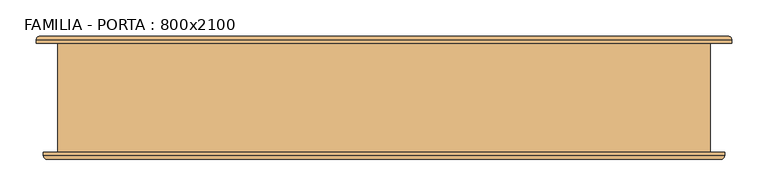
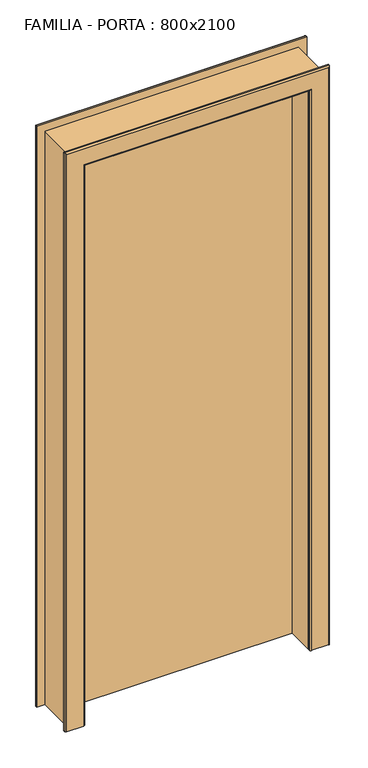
"""IFC4 building model written with IfcOpenShell, lengths in millimetres: door geometry, FAMILIA - PORTA : 800x2100."""

from ifc_helpers import new_model, si_unit, frame, origin, origin_with_axes, place, context, project, spatial, polyline, circle_curve, ellipse_curve, outline, extrude, faceted_brep, source, transform, mapped, element, save
from ifc_brep_helpers import plane_surface, cylinder_surface, advanced_brep


def familia_porta_800x2100_6d5a8061(model_context):
    return source(origin(), model_context, "Body", "SolidModel", [
        faceted_brep([(400.0, 75.0, 0.0), (400.0, -75.0, 0.0), (350.0, -75.0, 0.0), (350.0, 25.0, 0.0), (360.0, 25.0, 0.0), (360.0, 75.0, 0.0), (360.0, 75.0, 2110.0), (-460.0, 75.0, 2110.0), (-460.0, 75.0, 0.0), (-500.0, 75.0, 0.0), (-500.0, 75.0, 2150.0), (400.0, 75.0, 2150.0), (360.0, 25.0, 2110.0), (350.0, 25.0, 2100.0), (-450.0, 25.0, 2100.0), (-450.0, 25.0, 0.0), (-460.0, 25.0, 0.0), (-460.0, 25.0, 2110.0), (350.0, -75.0, 2100.0), (400.0, -75.0, 2150.0), (-500.0, -75.0, 2150.0), (-500.0, -75.0, 0.0), (-450.0, -75.0, 0.0), (-450.0, -75.0, 2100.0)], [[[0, 1, 2, 3, 4, 5]], [[5, 6, 7, 8, 9, 10, 11, 0]], [[4, 12, 6, 5]], [[3, 13, 14, 15, 16, 17, 12, 4]], [[2, 18, 13, 3]], [[1, 19, 20, 21, 22, 23, 18, 2]], [[0, 11, 19, 1]], [[10, 9, 21, 20]], [[9, 8, 16, 15, 22, 21]], [[17, 16, 8, 7]], [[23, 22, 15, 14]], [[12, 17, 7, 6]], [[18, 23, 14, 13]], [[11, 10, 20, 19]]]),
        advanced_brep(
        [(420.0, -75.0, 0.0), (420.0, -80.0, 0.0), (415.0, -85.0, 0.0), (355.0, -85.0, 0.0), (350.0, -80.0, 0.0), (350.0, -75.0, 0.0), (350.0, -75.0, 2100.0), (-450.0, -75.0, 2100.0), (-450.0, -75.0, 0.0), (-520.0, -75.0, 0.0), (-520.0, -75.0, 2170.0), (420.0, -75.0, 2170.0), (350.0, -80.0, 2100.0), (355.0, -85.0, 2105.0), (415.0, -85.0, 2165.0), (-515.0, -85.0, 2165.0), (-515.0, -85.0, 0.0), (-455.0, -85.0, 0.0), (-455.0, -85.0, 2105.0), (420.0, -80.0, 2170.0), (-520.0, -80.0, 0.0), (-520.0, -80.0, 2170.0), (-450.0, -80.0, 0.0), (-450.0, -80.0, 2100.0)],
        [
            (0, 1),
            (1, 2, circle_curve(frame((415.0, -80.0, 0.0), z_axis=(0.0, 0.0, -1.0), x_axis=(1.0, 0.0, 0.0)), 5.0)),
            (2, 3),
            (3, 4, circle_curve(frame((355.0, -80.0, 0.0), z_axis=(0.0, 0.0, -1.0), x_axis=(1.0, 0.0, 0.0)), 5.0)),
            (4, 5),
            (5, 0),
            (5, 6),
            (6, 7),
            (7, 8),
            (8, 9),
            (9, 10),
            (10, 11),
            (11, 0),
            (4, 12),
            (12, 6),
            (3, 13),
            (13, 12, ellipse_curve(frame((355.0, -80.0, 2105.0), z_axis=(0.7071067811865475, 0.0, -0.7071067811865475), x_axis=(-0.7071067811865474, 0.0, -0.7071067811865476)), 7.0710678, 5.0)),
            (2, 14),
            (14, 15),
            (15, 16),
            (16, 17),
            (17, 18),
            (18, 13),
            (1, 19),
            (19, 14, ellipse_curve(frame((415.0, -80.0, 2165.0), z_axis=(0.7071067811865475, 0.0, -0.7071067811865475), x_axis=(-0.7071067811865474, 0.0, -0.7071067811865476)), 7.0710678, 5.0)),
            (11, 19),
            (9, 20),
            (20, 21),
            (21, 10),
            (8, 22),
            (22, 17, circle_curve(frame((-455.0, -80.0, 0.0), z_axis=(0.0, 0.0, -1.0), x_axis=(-1.0, 0.0, 0.0)), 5.0)),
            (16, 20, circle_curve(frame((-515.0, -80.0, 0.0), z_axis=(0.0, 0.0, -1.0), x_axis=(-1.0, 0.0, 0.0)), 5.0)),
            (23, 22),
            (7, 23),
            (23, 18, ellipse_curve(frame((-455.0, -80.0, 2105.0), z_axis=(-0.7071067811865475, 0.0, -0.7071067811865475), x_axis=(-0.7071067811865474, 0.0, 0.7071067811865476)), 7.0710678, 5.0)),
            (15, 21, ellipse_curve(frame((-515.0, -80.0, 2165.0), z_axis=(-0.7071067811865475, 0.0, -0.7071067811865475), x_axis=(-0.7071067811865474, 0.0, 0.7071067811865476)), 7.0710678, 5.0)),
            (12, 23),
            (19, 21),
        ],
        [
            plane_surface(frame((350.0, -75.0, 0.0), z_axis=(0.0, 0.0, -1.0), x_axis=(0.0, -1.0, 0.0))),
            plane_surface(frame((420.0, -75.0, 0.0), z_axis=(0.0, 1.0, 0.0), x_axis=(0.0, 0.0, 1.0))),
            plane_surface(frame((350.0, -75.0, 0.0), z_axis=(-1.0, 0.0, 0.0), x_axis=(0.0, 0.0, 1.0))),
            cylinder_surface(frame((355.0, -80.0, 0.0), z_axis=(0.0, 0.0, -1.0), x_axis=(1.0, 0.0, 0.0)), 5.0),
            plane_surface(frame((355.0, -85.0, 0.0), z_axis=(0.0, -1.0, 0.0), x_axis=(0.0, 0.0, 1.0))),
            cylinder_surface(frame((415.0, -80.0, 0.0), z_axis=(0.0, 0.0, -1.0), x_axis=(1.0, 0.0, 0.0)), 5.0),
            plane_surface(frame((420.0, -80.0, 0.0), z_axis=(1.0, 0.0, 0.0), x_axis=(0.0, 0.0, 1.0))),
            plane_surface(frame((-520.0, -80.0, 2170.0), z_axis=(-1.0, 0.0, 0.0), x_axis=(0.0, 0.0, -1.0))),
            plane_surface(frame((-450.0, -75.0, 0.0), z_axis=(0.0, 0.0, -1.0), x_axis=(0.0, -1.0, 0.0))),
            plane_surface(frame((-450.0, -75.0, 2100.0), z_axis=(1.0, 0.0, 0.0), x_axis=(0.0, 0.0, -1.0))),
            cylinder_surface(frame((-455.0, -80.0, 2100.0), z_axis=(0.0, 0.0, 1.0), x_axis=(-1.0, 0.0, 0.0)), 5.0),
            cylinder_surface(frame((-515.0, -80.0, 2100.0), z_axis=(0.0, 0.0, 1.0), x_axis=(-1.0, 0.0, 0.0)), 5.0),
            plane_surface(frame((350.0, -75.0, 2100.0), z_axis=(0.0, 0.0, -1.0), x_axis=(-1.0, 0.0, 0.0))),
            cylinder_surface(frame((350.0, -80.0, 2105.0), z_axis=(1.0, 0.0, 0.0), x_axis=(0.0, 0.0, 1.0)), 5.0),
            cylinder_surface(frame((350.0, -80.0, 2165.0), z_axis=(1.0, 0.0, 0.0), x_axis=(0.0, 0.0, 1.0)), 5.0),
            plane_surface(frame((420.0, -80.0, 2170.0), z_axis=(0.0, 0.0, 1.0), x_axis=(-1.0, 0.0, 0.0))),
        ],
        [
            (0, [[1, 2, 3, 4, 5, 6]]),
            (1, [[7, 8, 9, 10, 11, 12, 13, -6]]),
            (2, [[14, 15, -7, -5]]),
            (3, [[16, 17, -14, -4]]),
            (4, [[18, 19, 20, 21, 22, 23, -16, -3]]),
            (5, [[24, 25, -18, -2]]),
            (6, [[-13, 26, -24, -1]]),
            (7, [[-11, 27, 28, 29]]),
            (8, [[-10, 30, 31, -21, 32, -27]]),
            (9, [[33, -30, -9, 34]]),
            (10, [[-22, -31, -33, 35]]),
            (11, [[-28, -32, -20, 36]]),
            (12, [[37, -34, -8, -15]]),
            (13, [[-23, -35, -37, -17]]),
            (14, [[38, -36, -19, -25]]),
            (15, [[-12, -29, -38, -26]]),
        ],
    ),
        advanced_brep(
        [(-530.0, 75.0, 0.0), (-530.0, 80.0, 0.0), (-525.0, 85.0, 0.0), (-465.0, 85.0, 0.0), (-460.0, 80.0, 0.0), (-460.0, 75.0, 0.0), (-460.0, 75.0, 2110.0), (360.0, 75.0, 2110.0), (360.0, 75.0, 0.0), (430.0, 75.0, 0.0), (430.0, 75.0, 2180.0), (-530.0, 75.0, 2180.0), (-460.0, 80.0, 2110.0), (-465.0, 85.0, 2115.0), (-525.0, 85.0, 2175.0), (425.0, 85.0, 2175.0), (425.0, 85.0, 0.0), (365.0, 85.0, 0.0), (365.0, 85.0, 2115.0), (-530.0, 80.0, 2180.0), (430.0, 80.0, 0.0), (430.0, 80.0, 2180.0), (360.0, 80.0, 0.0), (360.0, 80.0, 2110.0)],
        [
            (0, 1),
            (1, 2, circle_curve(frame((-525.0, 80.0, 0.0), z_axis=(0.0, 0.0, -1.0), x_axis=(-1.0, 0.0, 0.0)), 5.0)),
            (2, 3),
            (3, 4, circle_curve(frame((-465.0, 80.0, 0.0), z_axis=(0.0, 0.0, -1.0), x_axis=(-1.0, 0.0, 0.0)), 5.0)),
            (4, 5),
            (5, 0),
            (5, 6),
            (6, 7),
            (7, 8),
            (8, 9),
            (9, 10),
            (10, 11),
            (11, 0),
            (4, 12),
            (12, 6),
            (3, 13),
            (13, 12, ellipse_curve(frame((-465.0, 80.0, 2115.0), z_axis=(-0.7071067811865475, 0.0, -0.7071067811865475), x_axis=(0.7071067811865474, 0.0, -0.7071067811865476)), 7.0710678, 5.0)),
            (2, 14),
            (14, 15),
            (15, 16),
            (16, 17),
            (17, 18),
            (18, 13),
            (1, 19),
            (19, 14, ellipse_curve(frame((-525.0, 80.0, 2175.0), z_axis=(-0.7071067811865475, 0.0, -0.7071067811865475), x_axis=(0.7071067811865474, 0.0, -0.7071067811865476)), 7.0710678, 5.0)),
            (11, 19),
            (9, 20),
            (20, 21),
            (21, 10),
            (8, 22),
            (22, 17, circle_curve(frame((365.0, 80.0, 0.0), z_axis=(0.0, 0.0, -1.0), x_axis=(1.0, 0.0, 0.0)), 5.0)),
            (16, 20, circle_curve(frame((425.0, 80.0, 0.0), z_axis=(0.0, 0.0, -1.0), x_axis=(1.0, 0.0, 0.0)), 5.0)),
            (23, 22),
            (7, 23),
            (23, 18, ellipse_curve(frame((365.0, 80.0, 2115.0), z_axis=(0.7071067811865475, 0.0, -0.7071067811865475), x_axis=(0.7071067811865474, 0.0, 0.7071067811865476)), 7.0710678, 5.0)),
            (15, 21, ellipse_curve(frame((425.0, 80.0, 2175.0), z_axis=(0.7071067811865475, 0.0, -0.7071067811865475), x_axis=(0.7071067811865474, 0.0, 0.7071067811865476)), 7.0710678, 5.0)),
            (12, 23),
            (19, 21),
        ],
        [
            plane_surface(frame((-460.0, 75.0, 0.0), z_axis=(0.0, 0.0, -1.0), x_axis=(0.0, 1.0, 0.0))),
            plane_surface(frame((-530.0, 75.0, 0.0), z_axis=(0.0, -1.0, 0.0), x_axis=(0.0, 0.0, 1.0))),
            plane_surface(frame((-460.0, 75.0, 0.0), z_axis=(1.0, 0.0, 0.0), x_axis=(0.0, 0.0, 1.0))),
            cylinder_surface(frame((-465.0, 80.0, 0.0), z_axis=(0.0, 0.0, -1.0), x_axis=(-1.0, 0.0, 0.0)), 5.0),
            plane_surface(frame((-465.0, 85.0, 0.0), z_axis=(0.0, 1.0, 0.0), x_axis=(0.0, 0.0, 1.0))),
            cylinder_surface(frame((-525.0, 80.0, 0.0), z_axis=(0.0, 0.0, -1.0), x_axis=(-1.0, 0.0, 0.0)), 5.0),
            plane_surface(frame((-530.0, 80.0, 0.0), z_axis=(-1.0, 0.0, 0.0), x_axis=(0.0, 0.0, 1.0))),
            plane_surface(frame((430.0, 80.0, 2180.0), z_axis=(1.0, 0.0, 0.0), x_axis=(0.0, 0.0, -1.0))),
            plane_surface(frame((360.0, 75.0, 0.0), z_axis=(0.0, 0.0, -1.0), x_axis=(0.0, 1.0, 0.0))),
            plane_surface(frame((360.0, 75.0, 2110.0), z_axis=(-1.0, 0.0, 0.0), x_axis=(0.0, 0.0, -1.0))),
            cylinder_surface(frame((365.0, 80.0, 2110.0), z_axis=(0.0, 0.0, 1.0), x_axis=(1.0, 0.0, 0.0)), 5.0),
            cylinder_surface(frame((425.0, 80.0, 2110.0), z_axis=(0.0, 0.0, 1.0), x_axis=(1.0, 0.0, 0.0)), 5.0),
            plane_surface(frame((-460.0, 75.0, 2110.0), z_axis=(0.0, 0.0, -1.0), x_axis=(1.0, 0.0, 0.0))),
            cylinder_surface(frame((-460.0, 80.0, 2115.0), z_axis=(-1.0, 0.0, 0.0), x_axis=(0.0, 0.0, 1.0)), 5.0),
            cylinder_surface(frame((-460.0, 80.0, 2175.0), z_axis=(-1.0, 0.0, 0.0), x_axis=(0.0, 0.0, 1.0)), 5.0),
            plane_surface(frame((-530.0, 80.0, 2180.0), z_axis=(0.0, 0.0, 1.0), x_axis=(1.0, 0.0, 0.0))),
        ],
        [
            (0, [[1, 2, 3, 4, 5, 6]]),
            (1, [[7, 8, 9, 10, 11, 12, 13, -6]]),
            (2, [[14, 15, -7, -5]]),
            (3, [[16, 17, -14, -4]]),
            (4, [[18, 19, 20, 21, 22, 23, -16, -3]]),
            (5, [[24, 25, -18, -2]]),
            (6, [[-13, 26, -24, -1]]),
            (7, [[-11, 27, 28, 29]]),
            (8, [[-10, 30, 31, -21, 32, -27]]),
            (9, [[33, -30, -9, 34]]),
            (10, [[-22, -31, -33, 35]]),
            (11, [[-28, -32, -20, 36]]),
            (12, [[37, -34, -8, -15]]),
            (13, [[-23, -35, -37, -17]]),
            (14, [[38, -36, -19, -25]]),
            (15, [[-12, -29, -38, -26]]),
        ],
    ),
        extrude(outline(polyline([(360.0, 75.0), (360.0, 25.0), (-460.0, 25.0), (-460.0, 75.0), (360.0, 75.0)])), origin_with_axes(), (0.0, 0.0, 1.0), 2110.0),
    ])


if __name__ == "__main__":
    model = new_model("IFC4")
    model_context = context("Model", 3, world=origin())
    ifc_project = project(units=[si_unit("LENGTHUNIT", "METRE", prefix="MILLI")], contexts=[model_context])
    site = spatial("IfcSite", under=ifc_project)
    building = spatial("IfcBuilding", under=site)
    placement = place(None, origin())
    familia_porta_800x2100_shape = familia_porta_800x2100_6d5a8061(model_context)
    element("IfcDoor", 1, ObjectType="FAMILIA - PORTA : 800x2100", at=placement, inside=building, context=model_context, shape_type="MappedRepresentation", body=[
        mapped(familia_porta_800x2100_shape, transform((0.0, 0.0, 0.0), x_axis=(1.0, 0.0, 0.0), y_axis=(0.0, 1.0, 0.0), z_axis=(0.0, 0.0, 1.0))),
    ])
    save(model, "model.ifc")
